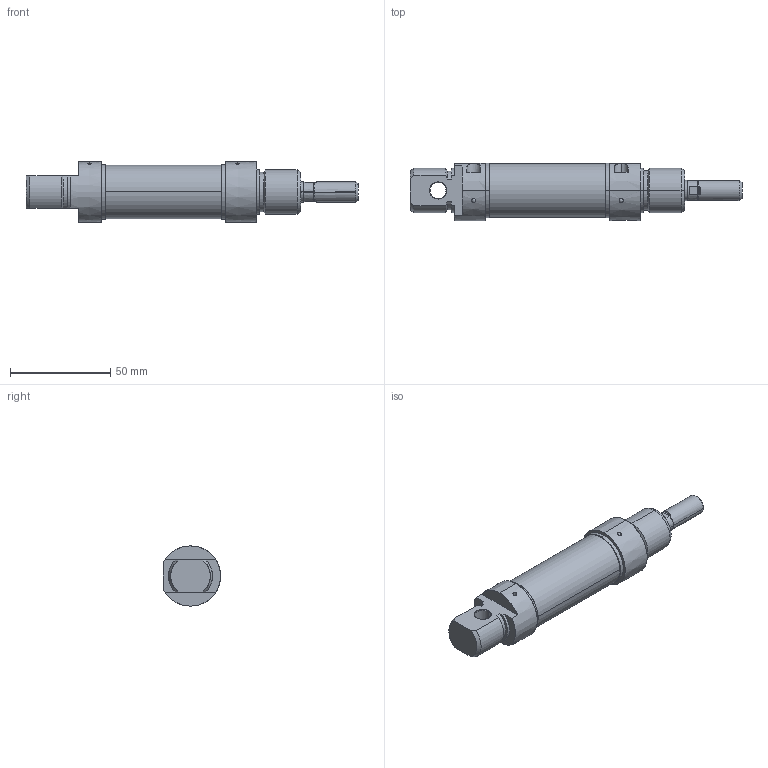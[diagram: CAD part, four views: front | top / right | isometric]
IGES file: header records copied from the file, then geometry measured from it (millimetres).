
Start section: SolidWorks IGES file using analytic representation for surfaces
Global section: file name: K:\Disegni Esecutivi\Cilindri\2_DISEGNI_cilindri_in_produzione\2_Minicilindri ISO 6432\1Minisolidworks\6_minicilidro iso 6432 _25 solidworks\CPLXMINI25\MH025\MH025_PIENO\MH0250025A.igs; native system: SolidWorks 2011; preprocessor: SolidWorks 2011; author: cad01; date: 110506.142608; units: millimetre
Bounding box: 165.5 x 28.5 x 30 mm (x, y, z)
Surface area: 19007.3 mm2 (no closed solid volume)
Topology: 0 solids, 0 shells, 253 faces, 3754 edges, 3748 vertices
Faces by surface type: revolution 159, bspline 94
